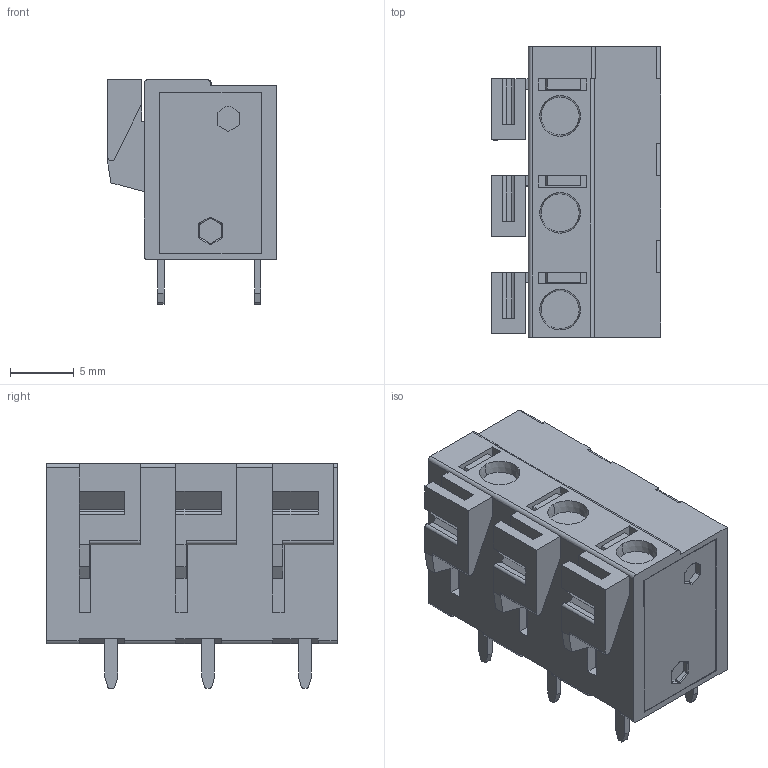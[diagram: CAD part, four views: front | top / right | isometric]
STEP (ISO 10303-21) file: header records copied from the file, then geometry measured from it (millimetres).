
FILE_DESCRIPTION((''),'2;1');
FILE_NAME('3PIN','2019-04-17T',('zhenbing.lai'),(''),'CREO PARAMETRIC BY PTC INC, 2016260','CREO PARAMETRIC BY PTC INC, 2016260','');
FILE_SCHEMA(('CONFIG_CONTROL_DESIGN'));
Length unit declared in the file: millimetre
Products named in the file (1): 3PIN
Bounding box: 13.3 x 22.86 x 17.7 mm (x, y, z)
Volume: 3273.8 mm3; surface area: 2173 mm2
Topology: 1 solids, 3 shells, 368 faces, 1027 edges, 684 vertices
Faces by surface type: plane 272, cylinder 80, torus 10, cone 6
Entity records: 11947 total; most frequent: CARTESIAN_POINT 2256, ORIENTED_EDGE 2054, DIRECTION 1956, EDGE_CURVE 1027, VECTOR 810, LINE 810, VERTEX_POINT 684, AXIS2_PLACEMENT_3D 573
